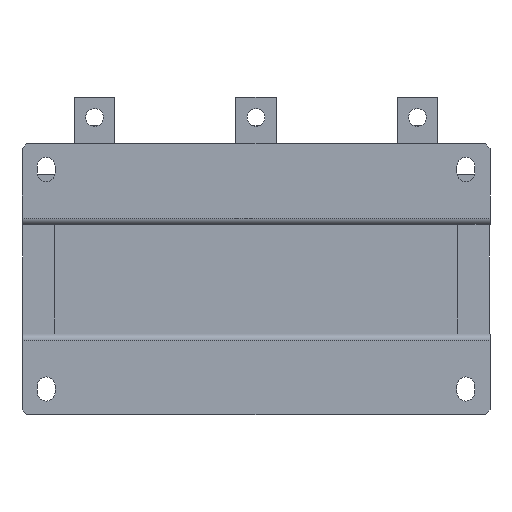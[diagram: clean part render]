
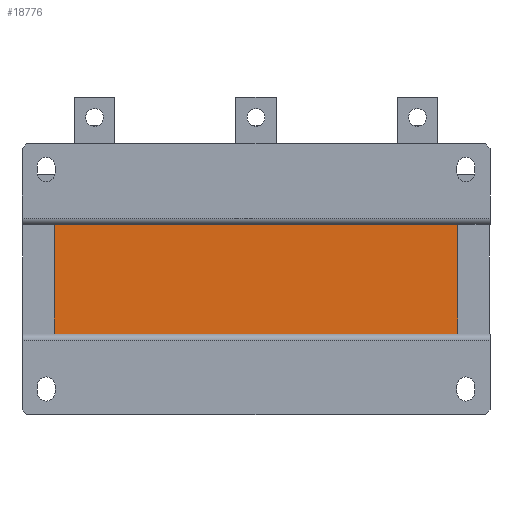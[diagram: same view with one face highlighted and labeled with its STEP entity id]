
A CAD part, front view. The second image highlights one B-rep face of the part: STEP entity #18776.
In plain terms, the highlighted planar face has unit normal (0, -1, 0).
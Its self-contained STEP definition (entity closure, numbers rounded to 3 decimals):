
#1881=LINE('',#30114,#3581);
#1949=LINE('',#30285,#3649);
#2057=LINE('',#30577,#3757);
#2059=LINE('',#30581,#3759);
#3581=VECTOR('',#23981,10.);
#3649=VECTOR('',#24165,10.);
#3757=VECTOR('',#24481,10.);
#3759=VECTOR('',#24487,10.);
#4485=PLANE('',#20165);
#5925=FACE_OUTER_BOUND('',#7182,.T.);
#7182=EDGE_LOOP('',(#16427,#16428,#16429,#16430));
#9238=VERTEX_POINT('',#30101);
#9243=VERTEX_POINT('',#30112);
#9283=VERTEX_POINT('',#30272);
#9288=VERTEX_POINT('',#30283);
#11519=EDGE_CURVE('',#9243,#9238,#1881,.T.);
#11604=EDGE_CURVE('',#9288,#9283,#1949,.T.);
#11750=EDGE_CURVE('',#9288,#9238,#2057,.T.);
#11752=EDGE_CURVE('',#9243,#9283,#2059,.T.);
#16427=ORIENTED_EDGE('',*,*,#11604,.F.);
#16428=ORIENTED_EDGE('',*,*,#11750,.T.);
#16429=ORIENTED_EDGE('',*,*,#11519,.F.);
#16430=ORIENTED_EDGE('',*,*,#11752,.T.);
#18776=ADVANCED_FACE('',(#5925),#4485,.T.);
#20165=AXIS2_PLACEMENT_3D('',#30603,#24522,#24523);
#23981=DIRECTION('',(-1.,0.,0.));
#24165=DIRECTION('',(1.,0.,0.));
#24481=DIRECTION('',(0.,0.,-1.));
#24487=DIRECTION('',(0.,0.,1.));
#24522=DIRECTION('center_axis',(0.,-1.,0.));
#24523=DIRECTION('ref_axis',(1.,0.,0.));
#30101=CARTESIAN_POINT('',(-125.,-117.6,-34.));
#30112=CARTESIAN_POINT('',(125.,-117.6,-34.));
#30114=CARTESIAN_POINT('',(125.,-117.6,-34.));
#30272=CARTESIAN_POINT('',(125.,-117.6,34.));
#30283=CARTESIAN_POINT('',(-125.,-117.6,34.));
#30285=CARTESIAN_POINT('',(125.,-117.6,34.));
#30577=CARTESIAN_POINT('',(-125.,-117.6,0.));
#30581=CARTESIAN_POINT('',(125.,-117.6,0.));
#30603=CARTESIAN_POINT('Origin',(-125.,-117.6,0.));
